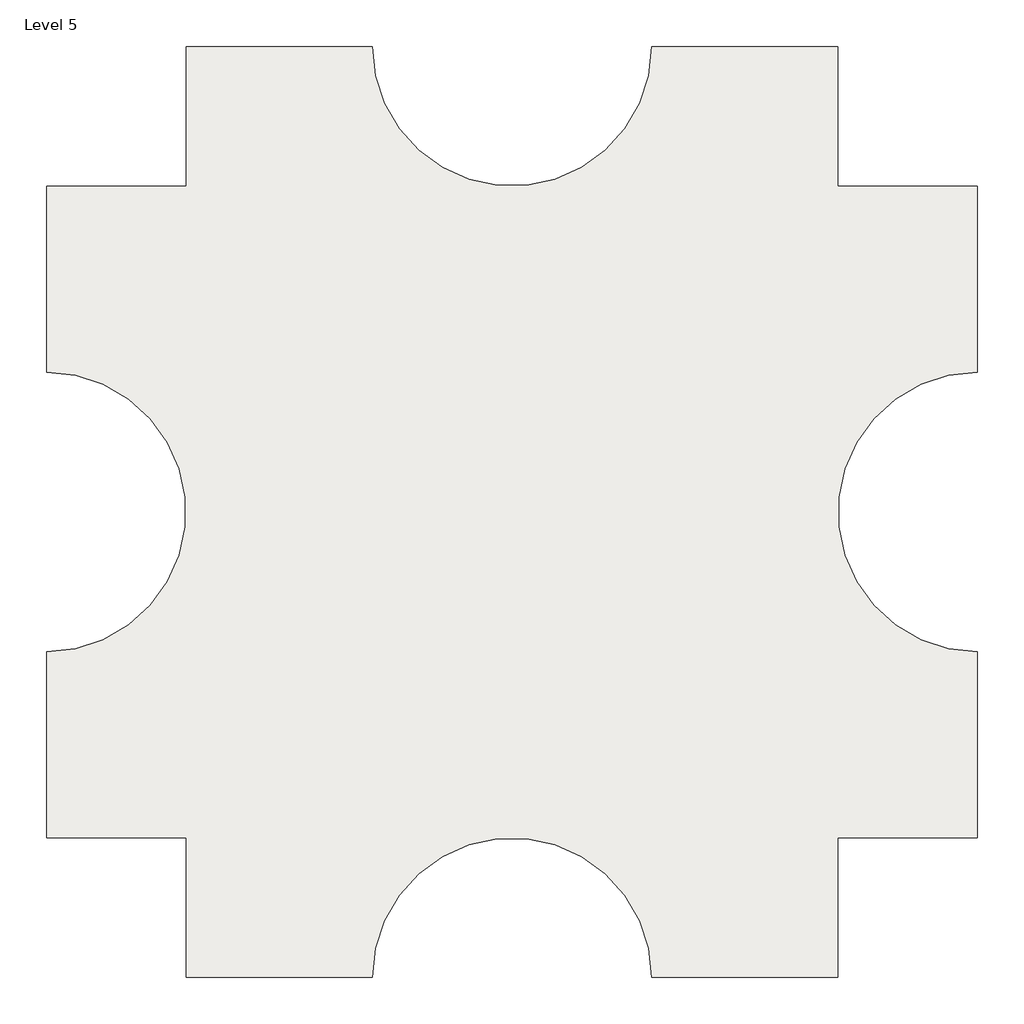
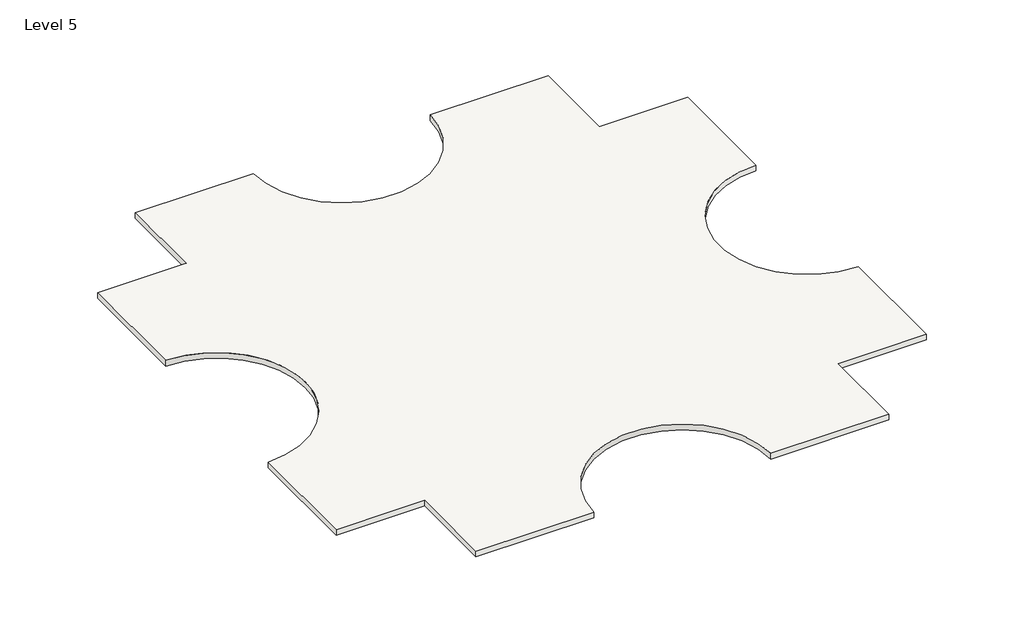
# One storey: 1 slab.
"""IFC4 building model written with IfcOpenShell, lengths in millimetres."""

import ifcopenshell
import ifcopenshell.guid

model = None  # the IFC model being written
_history = None  # IfcOwnerHistory: only IFC2X3 demands one
_inside = {}  # id of a spatial element -> (the spatial element, [elements in it])
_under = {}  # id of a project, library or spatial element -> (it, [spatial elements below it])
_declared = {}  # id of a project -> (the project, [libraries it declares])
_typed = {}  # id of a type object -> (the type object, [elements of that type])
_made_of = {}  # id of a material, layer set ... -> (it, [elements and type objects made of it])


def new_model(schema):
    """Start an empty IFC model of exactly this schema.

    Asked for "IFC4X3", IfcOpenShell would pick the latest addendum, in which some entities
    have other attributes; the version numbers below select the first issue.
    IFC2X3 requires an IfcOwnerHistory on every rooted entity: one is made here for all.
    """
    global model, _history
    if schema == "IFC4X3":
        model = ifcopenshell.file(schema_version=(4, 3, 0, 0))
    else:
        model = ifcopenshell.file(schema=schema)
    _inside.clear()
    _under.clear()
    _declared.clear()
    _typed.clear()
    _made_of.clear()
    _history = None
    if model.schema == "IFC2X3":
        org = make("IfcOrganization", Name="unknown")
        user = make(
            "IfcPersonAndOrganization",
            ThePerson=make("IfcPerson", FamilyName="unknown"),
            TheOrganization=org,
        )
        app = make(
            "IfcApplication",
            ApplicationDeveloper=org,
            Version="unknown",
            ApplicationFullName="unknown",
            ApplicationIdentifier="unknown",
        )
        _history = make(
            "IfcOwnerHistory",
            OwningUser=user,
            OwningApplication=app,
            ChangeAction="ADDED",
            CreationDate=0,
        )
    return model


def make(cls, **values):
    """One entity of the class cls with the attributes given. An attribute that is None is left unset."""
    return model.create_entity(
        cls, **{name: value for name, value in values.items() if value is not None}
    )


def rooted(cls, **values):
    """An entity with a GlobalId (a new one), such as an element, a storey or a relation."""
    return make(cls, GlobalId=ifcopenshell.guid.new(), OwnerHistory=_history, **values)


def si_unit(unit_type, name, prefix=None):
    """IfcSIUnit, for example si_unit("LENGTHUNIT", "METRE", prefix="MILLI")."""
    return make("IfcSIUnit", UnitType=unit_type, Prefix=prefix, Name=name)


def assignment(units):
    """IfcUnitAssignment: the units of a project."""
    return None if units is None else make("IfcUnitAssignment", Units=units)


def point(xyz):
    """IfcCartesianPoint."""
    return None if xyz is None else make("IfcCartesianPoint", Coordinates=xyz)


def direction(xyz):
    """IfcDirection."""
    return None if xyz is None else make("IfcDirection", DirectionRatios=xyz)


def frame(location, z_axis=None, x_axis=None):
    """IfcAxis2Placement3D, a coordinate frame: its origin and axes. An axis left out is left unset."""
    return make(
        "IfcAxis2Placement3D",
        Location=point(location),
        Axis=direction(z_axis),
        RefDirection=direction(x_axis),
    )


def frame_2d(location, x_axis=None):
    """IfcAxis2Placement2D, a coordinate frame in the plane: its origin and x axis."""
    return make(
        "IfcAxis2Placement2D", Location=point(location), RefDirection=direction(x_axis)
    )


def origin():
    """The frame at (0, 0, 0) with its axes left unset."""
    return frame((0.0, 0.0, 0.0))


def place(relative_to, where):
    """IfcLocalPlacement: puts the frame where relative to a parent placement (None: the world)."""
    return make(
        "IfcLocalPlacement", PlacementRelTo=relative_to, RelativePlacement=where
    )


def context(
    kind, dimensions, precision=None, world=None, true_north=None, identifier=None
):
    """IfcGeometricRepresentationContext, for example the 3D "Model" context."""
    return make(
        "IfcGeometricRepresentationContext",
        ContextIdentifier=identifier,
        ContextType=kind,
        CoordinateSpaceDimension=dimensions,
        Precision=precision,
        WorldCoordinateSystem=world,
        TrueNorth=true_north,
    )


def project(units=None, contexts=None):
    """IfcProject with its units and contexts."""
    return rooted(
        "IfcProject",
        Name="project",
        RepresentationContexts=contexts,
        UnitsInContext=assignment(units),
    )


def spatial(cls, under=None, at=None, **own):
    """A site, building, storey or space (cls), placed at a placement, below another one or the project."""
    s = rooted(cls, ObjectPlacement=at, **own)
    if under is not None:
        _under.setdefault(under.id(), (under, []))[1].append(s)
    return s


def polyline(points):
    """IfcPolyline through the points."""
    return make("IfcPolyline", Points=[point(p) for p in points])


def circle_curve(where, radius):
    """IfcCircle in the frame where."""
    return make("IfcCircle", Position=where, Radius=radius)


def trimmed(basis, trim1, trim2, sense, master):
    """IfcTrimmedCurve: the piece of a basis curve between two trims."""
    return make(
        "IfcTrimmedCurve",
        BasisCurve=basis,
        Trim1=trim1,
        Trim2=trim2,
        SenseAgreement=sense,
        MasterRepresentation=master,
    )


def segment(curve, same_sense, transition):
    """IfcCompositeCurveSegment."""
    return make(
        "IfcCompositeCurveSegment",
        Transition=transition,
        SameSense=same_sense,
        ParentCurve=curve,
    )


def composite_curve(segments, self_intersect=None):
    """IfcCompositeCurve: segments joined end to end."""
    return make("IfcCompositeCurve", Segments=segments, SelfIntersect=self_intersect)


def outline(outer, holes=None, kind="AREA"):
    """IfcArbitraryClosedProfileDef: a profile drawn as a closed curve; with holes, ...WithVoids."""
    if holes is None:
        return make("IfcArbitraryClosedProfileDef", ProfileType=kind, OuterCurve=outer)
    return make(
        "IfcArbitraryProfileDefWithVoids",
        ProfileType=kind,
        OuterCurve=outer,
        InnerCurves=holes,
    )


def extrude(swept, where, along, depth):
    """IfcExtrudedAreaSolid: the profile swept, set in the frame where, extruded along a direction by depth."""
    return make(
        "IfcExtrudedAreaSolid",
        SweptArea=swept,
        Position=where,
        ExtrudedDirection=direction(along),
        Depth=depth,
    )


def shape(context_of_items, identifier, shape_type, items):
    """IfcShapeRepresentation: the items that make up one representation, for example the "Body"."""
    return make(
        "IfcShapeRepresentation",
        ContextOfItems=context_of_items,
        RepresentationIdentifier=identifier,
        RepresentationType=shape_type,
        Items=items,
    )


def made_of(thing, what):
    """Note that an element or type object is made of a material, layer set ...; save() writes the relation."""
    if what is not None:
        _made_of.setdefault(what.id(), (what, []))[1].append(thing)
    return thing


def element(
    cls,
    number,
    at=None,
    inside=None,
    cuts=None,
    type_object=None,
    material=None,
    context=None,
    identifier="Body",
    shape_type=None,
    held_by="IfcProductDefinitionShape",
    body=None,
    shapes=None,
    **own,
):
    """One element of the class cls, such as IfcWall. Its Tag is "e" and its number.

    at: its placement. inside: the storey or other place that contains it. cuts: it is an
    opening in that element (IfcRelVoidsElement). A single representation is given by context,
    identifier, shape_type and body (its items); several are given by shapes. held_by: the class
    of the entity that holds the representations. save() writes the other relations.
    """
    e = rooted(cls, Tag="e%d" % number, ObjectPlacement=at, **own)
    if body is not None:
        shapes = [shape(context, identifier, shape_type, body)]
    if shapes is not None:
        e.Representation = make(held_by, Representations=shapes)
    if inside is not None:
        _inside.setdefault(inside.id(), (inside, []))[1].append(e)
    if cuts is not None:
        rooted(
            "IfcRelVoidsElement", RelatingBuildingElement=cuts, RelatedOpeningElement=e
        )
    if type_object is not None:
        _typed.setdefault(type_object.id(), (type_object, []))[1].append(e)
    return made_of(e, material)


def aggregate(whole, parts):
    """IfcRelAggregates: a whole, such as a stair, and the parts it consists of."""
    return rooted("IfcRelAggregates", RelatingObject=whole, RelatedObjects=parts)


def save(model, path):
    """Write the relations noted so far, then the file.

    IfcRelAggregates (storeys below a building ...), IfcRelContainedInSpatialStructure (elements
    in a storey), IfcRelDefinesByType, IfcRelAssociatesMaterial and IfcRelDeclares: one each for
    every whole, place, type object, material and project.
    """
    for whole, parts in _under.values():
        aggregate(whole, parts)
    for where, things in _inside.values():
        rooted(
            "IfcRelContainedInSpatialStructure",
            RelatedElements=things,
            RelatingStructure=where,
        )
    for kind, things in _typed.values():
        rooted("IfcRelDefinesByType", RelatedObjects=things, RelatingType=kind)
    for what, things in _made_of.values():
        rooted("IfcRelAssociatesMaterial", RelatedObjects=things, RelatingMaterial=what)
    for by, libraries in _declared.values():
        rooted("IfcRelDeclares", RelatingContext=by, RelatedDefinitions=libraries)
    model.write(path)


model = new_model("IFC4")

# Units and contexts
model_context = context("Model", 3, world=origin())
ifc_project = project(units=[si_unit("LENGTHUNIT", "METRE", prefix="MILLI")], contexts=[model_context])

# Site, building, storey
site = spatial("IfcSite", under=ifc_project)
building = spatial("IfcBuilding", under=site)
storey = spatial("IfcBuildingStorey", under=building, Name="Level 5", Elevation=12192.0)

# Slab
placement = place(None, origin())
element("IfcSlab", 1, ObjectType="Generic - 12\"", at=placement, inside=storey, context=model_context, shape_type="SweptSolid", body=[
    extrude(outline(composite_curve([segment(polyline([(-7150.3629456, 4479.6634547), (-7150.3629456, 9051.6634547), (-1054.3629456, 9051.6634547)]), True, "CONTINUOUS"), segment(trimmed(circle_curve(frame_2d((3517.6370544, 9051.6634547)), 4572.0), [point((-1054.3629456, 9051.6634547))], [point((8089.6370544, 9051.6634547))], True, "CARTESIAN"), True, "CONTINUOUS"), segment(polyline([(8089.6370544, 9051.6634547), (14185.6370544, 9051.6634547), (14185.6370544, 4479.6634547), (18757.6370544, 4479.6634547), (18757.6370544, -1616.3365453)]), True, "CONTINUOUS"), segment(trimmed(circle_curve(frame_2d((18757.6370544, -6188.3365453)), 4572.0), [point((18757.6370544, -1616.3365453))], [point((18757.6370544, -10760.3365453))], True, "CARTESIAN"), True, "CONTINUOUS"), segment(polyline([(18757.6370544, -10760.3365453), (18757.6370544, -16856.3365453), (14185.6370544, -16856.3365453), (14185.6370544, -21428.3365453), (8089.6370544, -21428.3365453)]), True, "CONTINUOUS"), segment(trimmed(circle_curve(frame_2d((3517.6370544, -21428.3365453)), 4572.0), [point((8089.6370544, -21428.3365453))], [point((-1054.3629456, -21428.3365453))], True, "CARTESIAN"), True, "CONTINUOUS"), segment(polyline([(-1054.3629456, -21428.3365453), (-7150.3629456, -21428.3365453), (-7150.3629456, -16856.3365453), (-11722.3629456, -16856.3365453), (-11722.3629456, -10760.3365453)]), True, "CONTINUOUS"), segment(trimmed(circle_curve(frame_2d((-11722.3629456, -6188.3365453)), 4572.0), [point((-11722.3629456, -10760.3365453))], [point((-11722.3629456, -1616.3365453))], True, "CARTESIAN"), True, "CONTINUOUS"), segment(polyline([(-11722.3629456, -1616.3365453), (-11722.3629456, 4479.6634547), (-7150.3629456, 4479.6634547)]), True, "CONTINUOUS")], self_intersect=False)), frame((0.0, 0.0, 11887.2), z_axis=(0.0, 0.0, 1.0), x_axis=(1.0, 0.0, 0.0)), (0.0, 0.0, 1.0), 304.8),
])

save(model, "model.ifc")
